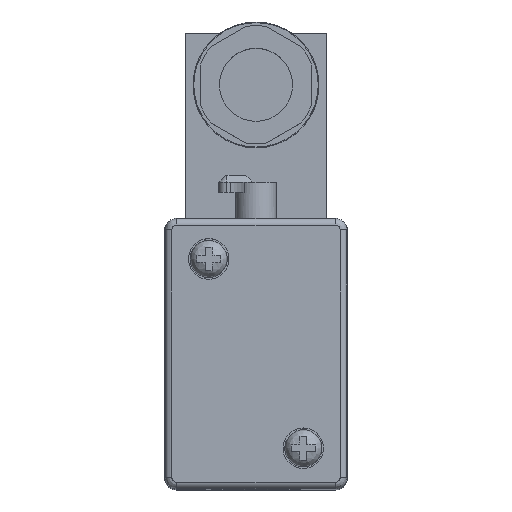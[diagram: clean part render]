
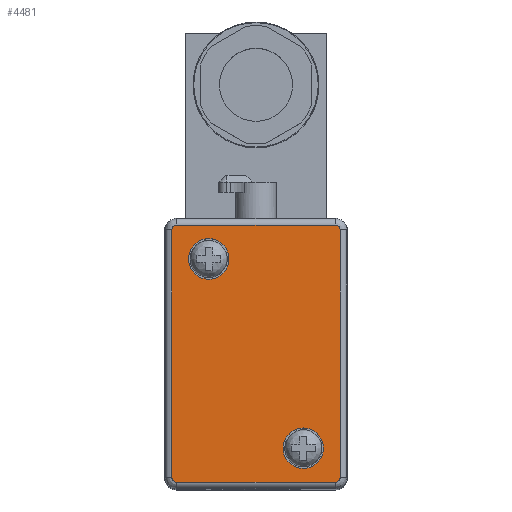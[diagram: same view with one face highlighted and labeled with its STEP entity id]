
A CAD part, top view. The second image highlights one B-rep face of the part: STEP entity #4481.
In plain terms, the highlighted planar face has unit normal (0, 0, 1).
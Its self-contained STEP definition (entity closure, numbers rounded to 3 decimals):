
#95=FACE_BOUND('',#610,.T.);
#96=FACE_BOUND('',#611,.T.);
#348=FACE_OUTER_BOUND('',#609,.T.);
#609=EDGE_LOOP('',(#3612,#3613,#3614,#3615,#3616,#3617,#3618,#3619));
#610=EDGE_LOOP('',(#3620));
#611=EDGE_LOOP('',(#3621));
#780=CIRCLE('',#4867,0.7);
#781=CIRCLE('',#4868,0.7);
#782=CIRCLE('',#4869,0.7);
#783=CIRCLE('',#4870,0.7);
#784=CIRCLE('',#4871,3.);
#785=CIRCLE('',#4872,3.);
#1173=LINE('',#7216,#1602);
#1174=LINE('',#7220,#1603);
#1175=LINE('',#7224,#1604);
#1176=LINE('',#7228,#1605);
#1602=VECTOR('',#5935,1000.);
#1603=VECTOR('',#5938,1000.);
#1604=VECTOR('',#5941,1000.);
#1605=VECTOR('',#5944,1000.);
#1985=VERTEX_POINT('',#7214);
#1986=VERTEX_POINT('',#7215);
#1987=VERTEX_POINT('',#7217);
#1988=VERTEX_POINT('',#7219);
#1989=VERTEX_POINT('',#7221);
#1990=VERTEX_POINT('',#7223);
#1991=VERTEX_POINT('',#7225);
#1992=VERTEX_POINT('',#7227);
#1993=VERTEX_POINT('',#7230);
#1994=VERTEX_POINT('',#7232);
#2548=EDGE_CURVE('',#1985,#1986,#1173,.T.);
#2549=EDGE_CURVE('',#1986,#1987,#780,.T.);
#2550=EDGE_CURVE('',#1987,#1988,#1174,.T.);
#2551=EDGE_CURVE('',#1988,#1989,#781,.T.);
#2552=EDGE_CURVE('',#1989,#1990,#1175,.T.);
#2553=EDGE_CURVE('',#1990,#1991,#782,.T.);
#2554=EDGE_CURVE('',#1991,#1992,#1176,.T.);
#2555=EDGE_CURVE('',#1992,#1985,#783,.T.);
#2556=EDGE_CURVE('',#1993,#1993,#784,.T.);
#2557=EDGE_CURVE('',#1994,#1994,#785,.T.);
#3612=ORIENTED_EDGE('',*,*,#2548,.T.);
#3613=ORIENTED_EDGE('',*,*,#2549,.T.);
#3614=ORIENTED_EDGE('',*,*,#2550,.T.);
#3615=ORIENTED_EDGE('',*,*,#2551,.T.);
#3616=ORIENTED_EDGE('',*,*,#2552,.T.);
#3617=ORIENTED_EDGE('',*,*,#2553,.T.);
#3618=ORIENTED_EDGE('',*,*,#2554,.T.);
#3619=ORIENTED_EDGE('',*,*,#2555,.T.);
#3620=ORIENTED_EDGE('',*,*,#2556,.F.);
#3621=ORIENTED_EDGE('',*,*,#2557,.F.);
#4010=PLANE('',#4866);
#4481=ADVANCED_FACE('',(#348,#95,#96),#4010,.T.);
#4866=AXIS2_PLACEMENT_3D('',#7213,#5933,#5934);
#4867=AXIS2_PLACEMENT_3D('',#7218,#5936,#5937);
#4868=AXIS2_PLACEMENT_3D('',#7222,#5939,#5940);
#4869=AXIS2_PLACEMENT_3D('',#7226,#5942,#5943);
#4870=AXIS2_PLACEMENT_3D('',#7229,#5945,#5946);
#4871=AXIS2_PLACEMENT_3D('',#7231,#5947,#5948);
#4872=AXIS2_PLACEMENT_3D('',#7233,#5949,#5950);
#5933=DIRECTION('center_axis',(0.,0.,1.));
#5934=DIRECTION('ref_axis',(1.,0.,0.));
#5935=DIRECTION('',(0.,1.,0.));
#5936=DIRECTION('center_axis',(0.,0.,1.));
#5937=DIRECTION('ref_axis',(1.,0.,0.));
#5938=DIRECTION('',(-1.,0.,0.));
#5939=DIRECTION('center_axis',(0.,0.,1.));
#5940=DIRECTION('ref_axis',(1.,0.,0.));
#5941=DIRECTION('',(0.,-1.,0.));
#5942=DIRECTION('center_axis',(0.,0.,1.));
#5943=DIRECTION('ref_axis',(1.,0.,0.));
#5944=DIRECTION('',(1.,0.,0.));
#5945=DIRECTION('center_axis',(0.,0.,1.));
#5946=DIRECTION('ref_axis',(1.,0.,0.));
#5947=DIRECTION('center_axis',(0.,0.,1.));
#5948=DIRECTION('ref_axis',(1.,0.,0.));
#5949=DIRECTION('center_axis',(0.,0.,1.));
#5950=DIRECTION('ref_axis',(1.,0.,0.));
#7213=CARTESIAN_POINT('Origin',(-11.75,38.3,135.2));
#7214=CARTESIAN_POINT('',(12.45,1.7,135.2));
#7215=CARTESIAN_POINT('',(12.45,38.3,135.2));
#7216=CARTESIAN_POINT('',(12.45,38.3,135.2));
#7217=CARTESIAN_POINT('',(11.75,39.,135.2));
#7218=CARTESIAN_POINT('Origin',(11.75,38.3,135.2));
#7219=CARTESIAN_POINT('',(-11.75,39.,135.2));
#7220=CARTESIAN_POINT('',(-11.75,39.,135.2));
#7221=CARTESIAN_POINT('',(-12.45,38.3,135.2));
#7222=CARTESIAN_POINT('Origin',(-11.75,38.3,135.2));
#7223=CARTESIAN_POINT('',(-12.45,1.7,135.2));
#7224=CARTESIAN_POINT('',(-12.45,1.7,135.2));
#7225=CARTESIAN_POINT('',(-11.75,1.,135.2));
#7226=CARTESIAN_POINT('Origin',(-11.75,1.7,135.2));
#7227=CARTESIAN_POINT('',(11.75,1.,135.2));
#7228=CARTESIAN_POINT('',(11.75,1.,135.2));
#7229=CARTESIAN_POINT('Origin',(11.75,1.7,135.2));
#7230=CARTESIAN_POINT('',(-10.,34.,135.2));
#7231=CARTESIAN_POINT('Origin',(-7.,34.,135.2));
#7232=CARTESIAN_POINT('',(4.,6.,135.2));
#7233=CARTESIAN_POINT('Origin',(7.,6.,135.2));
